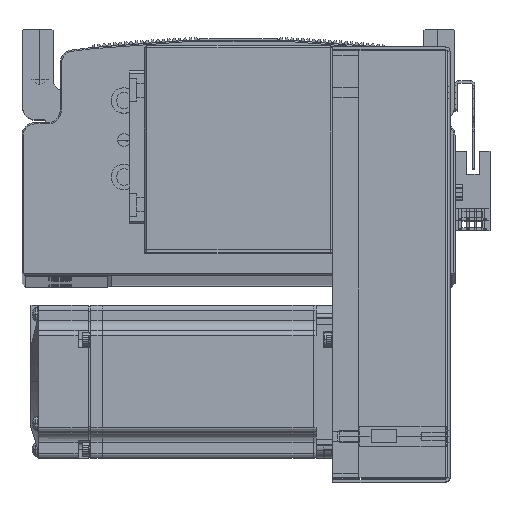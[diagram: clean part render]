
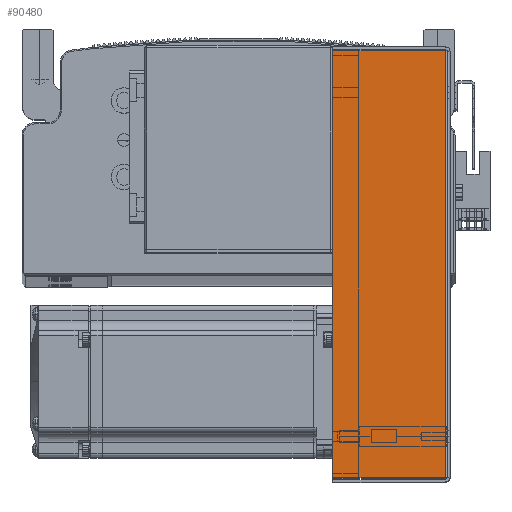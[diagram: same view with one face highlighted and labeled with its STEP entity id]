
A CAD part, top view. The second image highlights one B-rep face of the part: STEP entity #90480.
In plain terms, the highlighted planar face has unit normal (0, 0, 1) as drawn and (0, 0, -1) by its records, which use the part's own axes.
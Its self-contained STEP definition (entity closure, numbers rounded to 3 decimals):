
#5881 = AXIS2_PLACEMENT_3D ( 'NONE', #16250, #16214, #16206 ) ;
#6793 = FACE_OUTER_BOUND ( 'NONE', #36251, .T. ) ;
#7123 = CARTESIAN_POINT ( 'NONE',  ( -83.793, 0., -40.5 ) ) ;
#7320 = DIRECTION ( 'NONE',  ( 0., 1., 0. ) ) ;
#16206 = DIRECTION ( 'NONE',  ( 0., -1., 0. ) ) ;
#16209 = PLANE ( 'NONE',  #5881 ) ;
#16214 = DIRECTION ( 'NONE',  ( 0., 0., 1. ) ) ;
#16250 = CARTESIAN_POINT ( 'NONE',  ( 0., 0., -40.5 ) ) ;
#22423 = ORIENTED_EDGE ( 'NONE', *, *, #24437, .F. ) ;
#22457 = ORIENTED_EDGE ( 'NONE', *, *, #24434, .T. ) ;
#22484 = ORIENTED_EDGE ( 'NONE', *, *, #24477, .F. ) ;
#22500 = ORIENTED_EDGE ( 'NONE', *, *, #24358, .T. ) ;
#24358 = EDGE_CURVE ( 'NONE', #27248, #27345, #43011, .T. ) ;
#24434 = EDGE_CURVE ( 'NONE', #27345, #27285, #40420, .T. ) ;
#24437 = EDGE_CURVE ( 'NONE', #27248, #36056, #40480, .T. ) ;
#24477 = EDGE_CURVE ( 'NONE', #36056, #27285, #40539, .T. ) ;
#27248 = VERTEX_POINT ( 'NONE', #61382 ) ;
#27285 = VERTEX_POINT ( 'NONE', #60981 ) ;
#27345 = VERTEX_POINT ( 'NONE', #80478 ) ;
#36056 = VERTEX_POINT ( 'NONE', #54090 ) ;
#36251 = EDGE_LOOP ( 'NONE', ( #22423, #22500, #22457, #22484 ) ) ;
#40419 = VECTOR ( 'NONE', #77241, 1000. ) ;
#40420 = LINE ( 'NONE', #77272, #40419 ) ;
#40461 = VECTOR ( 'NONE', #77243, 1000. ) ;
#40480 = LINE ( 'NONE', #77242, #40461 ) ;
#40510 = VECTOR ( 'NONE', #77398, 1000. ) ;
#40539 = LINE ( 'NONE', #77402, #40510 ) ;
#43011 = LINE ( 'NONE', #7123, #43083 ) ;
#43083 = VECTOR ( 'NONE', #7320, 1000. ) ;
#54090 = CARTESIAN_POINT ( 'NONE',  ( 83.793, 0.737, -40.5 ) ) ;
#60981 = CARTESIAN_POINT ( 'NONE',  ( 83.793, 45., -40.5 ) ) ;
#61382 = CARTESIAN_POINT ( 'NONE',  ( -83.793, 0.737, -40.5 ) ) ;
#77241 = DIRECTION ( 'NONE',  ( 1., 0., 0. ) ) ;
#77242 = CARTESIAN_POINT ( 'NONE',  ( 0., 0.737, -40.5 ) ) ;
#77243 = DIRECTION ( 'NONE',  ( 1., 0., 0. ) ) ;
#77272 = CARTESIAN_POINT ( 'NONE',  ( 84.5, 45., -40.5 ) ) ;
#77398 = DIRECTION ( 'NONE',  ( 0., 1., 0. ) ) ;
#77402 = CARTESIAN_POINT ( 'NONE',  ( 83.793, 0., -40.5 ) ) ;
#80478 = CARTESIAN_POINT ( 'NONE',  ( -83.793, 45., -40.5 ) ) ;
#90480 = ADVANCED_FACE ( 'NONE', ( #6793 ), #16209, .F. ) ;
